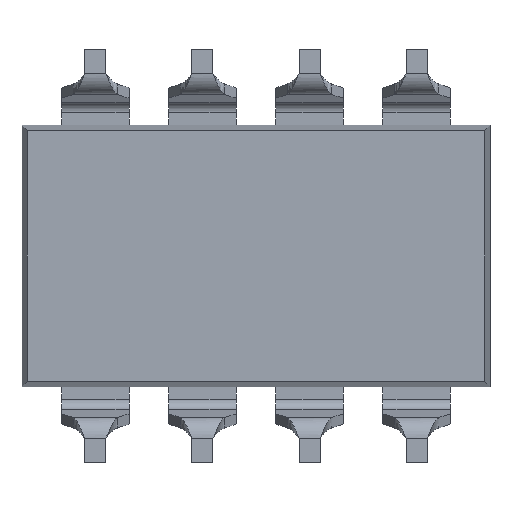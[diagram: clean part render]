
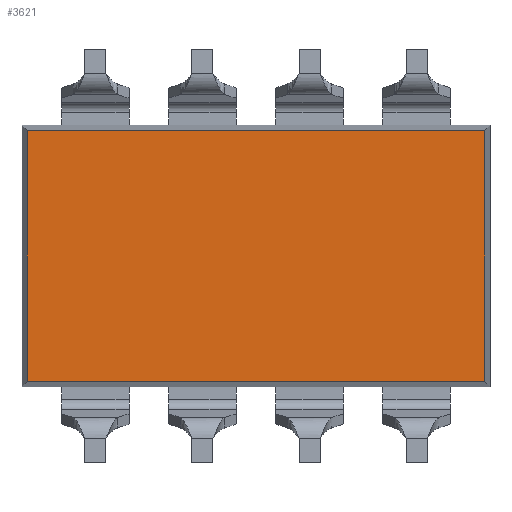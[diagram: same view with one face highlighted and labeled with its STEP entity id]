
A CAD part, front view. The second image highlights one B-rep face of the part: STEP entity #3621.
In plain terms, the highlighted planar face has unit normal (0, -1, 0).
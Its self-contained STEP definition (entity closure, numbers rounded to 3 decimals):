
#3089 = DIRECTION ( 'NONE',  ( -1., 0., 0. ) ) ;
#3090 = VECTOR ( 'NONE', #3089, 1000. ) ;
#3091 = CARTESIAN_POINT ( 'NONE',  ( 0., -2.05, -2.977 ) ) ;
#3092 = LINE ( 'NONE', #3091, #3090 ) ;
#3552 = VERTEX_POINT ( 'NONE', #8158 ) ;
#3554 = VERTEX_POINT ( 'NONE', #8157 ) ;
#3558 = VERTEX_POINT ( 'NONE', #8211 ) ;
#3560 = EDGE_CURVE ( 'NONE', #3558, #3561, #8210, .T. ) ;
#3561 = VERTEX_POINT ( 'NONE', #8206 ) ;
#3599 = ORIENTED_EDGE ( 'NONE', *, *, #3560, .F. ) ;
#3600 = ORIENTED_EDGE ( 'NONE', *, *, #3601, .T. ) ;
#3601 = EDGE_CURVE ( 'NONE', #3558, #3554, #8305, .T. ) ;
#3602 = ORIENTED_EDGE ( 'NONE', *, *, #13678, .F. ) ;
#3621 = ADVANCED_FACE ( 'NONE', ( #8334 ), #8332, .F. ) ;
#3622 = EDGE_LOOP ( 'NONE', ( #3623, #3599, #3600, #3602 ) ) ;
#3623 = ORIENTED_EDGE ( 'NONE', *, *, #3624, .T. ) ;
#3624 = EDGE_CURVE ( 'NONE', #3552, #3561, #8333, .T. ) ;
#8157 = CARTESIAN_POINT ( 'NONE',  ( -5.427, -2.05, -2.977 ) ) ;
#8158 = CARTESIAN_POINT ( 'NONE',  ( 5.427, -2.05, -2.977 ) ) ;
#8206 = CARTESIAN_POINT ( 'NONE',  ( 5.427, -2.05, 2.977 ) ) ;
#8207 = DIRECTION ( 'NONE',  ( 1., 0., 0. ) ) ;
#8208 = VECTOR ( 'NONE', #8207, 1000. ) ;
#8209 = CARTESIAN_POINT ( 'NONE',  ( 0., -2.05, 2.977 ) ) ;
#8210 = LINE ( 'NONE', #8209, #8208 ) ;
#8211 = CARTESIAN_POINT ( 'NONE',  ( -5.427, -2.05, 2.977 ) ) ;
#8302 = DIRECTION ( 'NONE',  ( 0., 0., -1. ) ) ;
#8303 = VECTOR ( 'NONE', #8302, 1000. ) ;
#8304 = CARTESIAN_POINT ( 'NONE',  ( -5.427, -2.05, 0. ) ) ;
#8305 = LINE ( 'NONE', #8304, #8303 ) ;
#8325 = DIRECTION ( 'NONE',  ( 0., 0., 1. ) ) ;
#8326 = VECTOR ( 'NONE', #8325, 1000. ) ;
#8327 = CARTESIAN_POINT ( 'NONE',  ( 5.427, -2.05, 0. ) ) ;
#8328 = DIRECTION ( 'NONE',  ( 0., 0., 1. ) ) ;
#8329 = DIRECTION ( 'NONE',  ( 0., 1., 0. ) ) ;
#8330 = CARTESIAN_POINT ( 'NONE',  ( -5.427, -2.05, -2.977 ) ) ;
#8331 = AXIS2_PLACEMENT_3D ( 'NONE', #8330, #8329, #8328 ) ;
#8332 = PLANE ( 'NONE',  #8331 ) ;
#8333 = LINE ( 'NONE', #8327, #8326 ) ;
#8334 = FACE_OUTER_BOUND ( 'NONE', #3622, .T. ) ;
#13678 = EDGE_CURVE ( 'NONE', #3552, #3554, #3092, .T. ) ;
